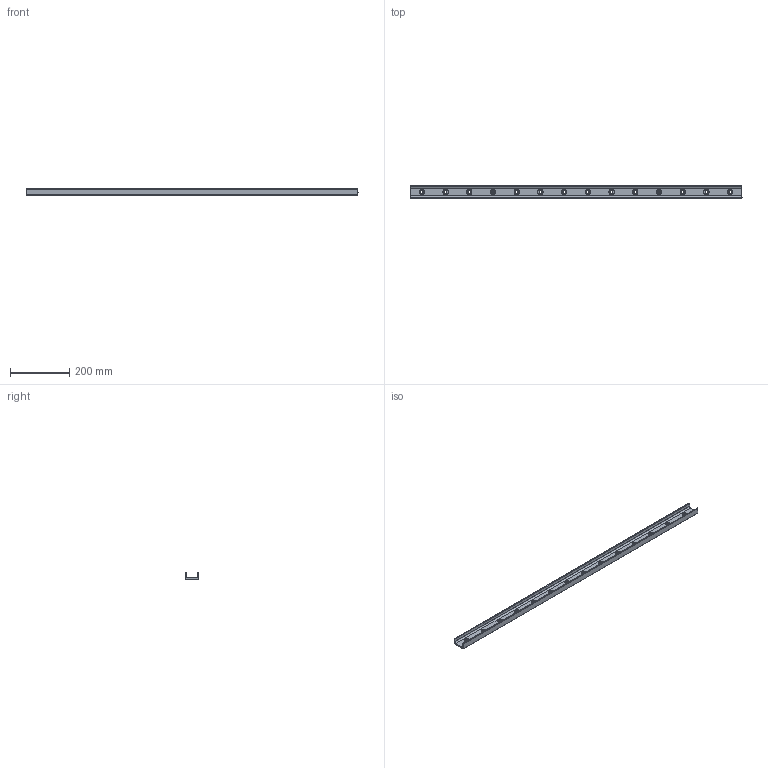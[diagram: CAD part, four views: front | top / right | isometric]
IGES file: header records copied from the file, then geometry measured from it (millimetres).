
Start section: SolidWorks IGES file using analytic representation for surfaces
Global section: file name: C:\Users\IanO\Desktop\43\L1943.ULC43_v2_20180121_IGES\L1943.ULC43-1120.igs; native system: SolidWorks 2017; preprocessor: SolidWorks 2017; author: IanO; date: 190121.084648; units: millimetre
Bounding box: 1120 x 43 x 21 mm (x, y, z)
Surface area: 176043.1 mm2 (no closed solid volume)
Topology: 0 solids, 0 shells, 96 faces, 2310 edges, 2310 vertices
Faces by surface type: revolution 69, bspline 27
